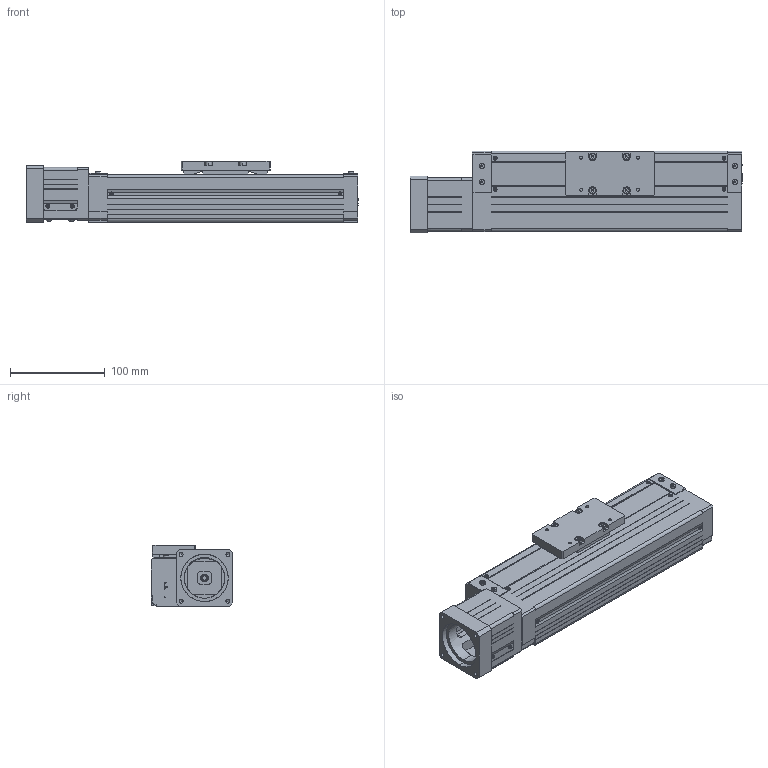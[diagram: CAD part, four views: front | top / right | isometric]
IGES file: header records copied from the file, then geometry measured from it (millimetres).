
Global section: file name: No Iges File Name specified; native system: AutoDesk Inventor R10; preprocessor: AutoDesk Inventor Iges Exporter R10; author: No Author specified; organization: No Organization specified; date: 20110701.173341; units: millimetre
Bounding box: 351 x 86.45 x 65 mm (x, y, z)
Surface area: 228523.2 mm2 (no closed solid volume)
Topology: 0 solids, 0 shells, 930 faces, 5780 edges, 5756 vertices
Faces by surface type: bspline 930
